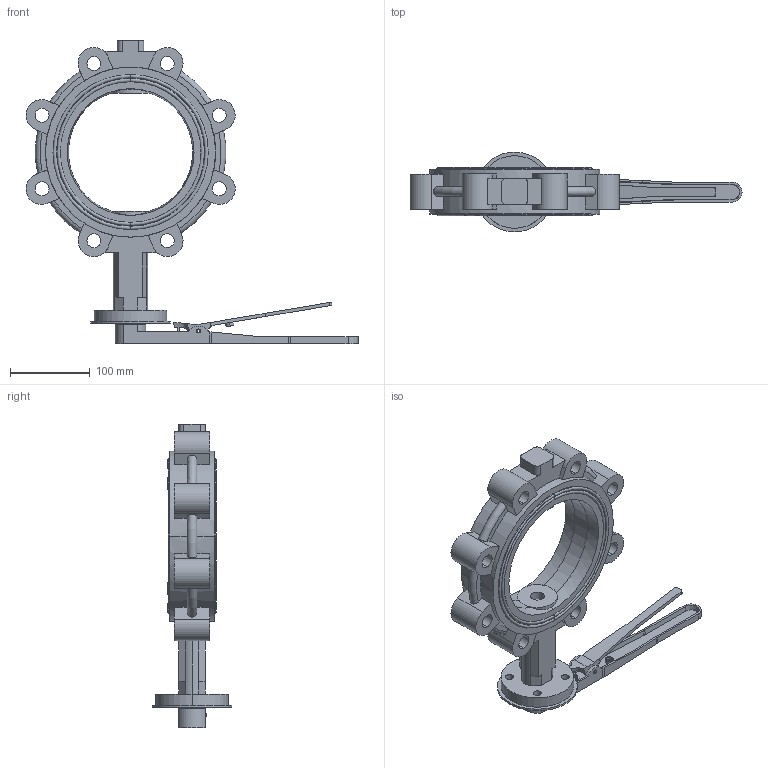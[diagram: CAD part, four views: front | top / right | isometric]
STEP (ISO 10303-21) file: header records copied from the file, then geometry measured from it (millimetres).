
FILE_DESCRIPTION (( 'STEP AP203' ), '1' );
FILE_NAME ('DN150凸耳手柄.STEP', '2026-06-16T07:54:22', ( '微软用户' ), ( '微软中国' ), 'SwSTEP 2.0', 'SolidWorks 2024', '' );
FILE_SCHEMA (( 'CONFIG_CONTROL_DESIGN' ));
Length unit declared in the file: millimetre
Products named in the file (9): 4寸齿盘 ; DN150凸耳手柄; 150凸耳，10.4公斤; spring pin slotted light duty1 gb_GB_PARALLEL_PINS_TYPE7 5X35; 衬胶6寸; 玛钢手柄装配方14; DN150凸耳装配; 玛钢手柄本体方14; 玛钢手柄弹簧本体方14
Assembly tree (8 placements, depth 3):
  DN150凸耳手柄
    DN150凸耳装配
      150凸耳，10.4公斤
      衬胶6寸
    玛钢手柄装配方14
      玛钢手柄本体方14
      玛钢手柄弹簧本体方14
      spring pin slotted light duty1 gb_GB_PARALLEL_PINS_TYPE7 5X35
    4寸齿盘 
Bounding box: 415.71 x 99.71 x 380 mm (x, y, z)
Volume: 1670339.3 mm3; surface area: 399316.5 mm2
Topology: 7 solids, 7 shells, 335 faces, 905 edges, 596 vertices
Faces by surface type: plane 168, cylinder 120, cone 23, torus 22, bspline 2
Entity records: 12596 total; most frequent: CARTESIAN_POINT 2905, DIRECTION 1895, ORIENTED_EDGE 1810, EDGE_CURVE 905, AXIS2_PLACEMENT_3D 706, VERTEX_POINT 596, LINE 483, VECTOR 483
